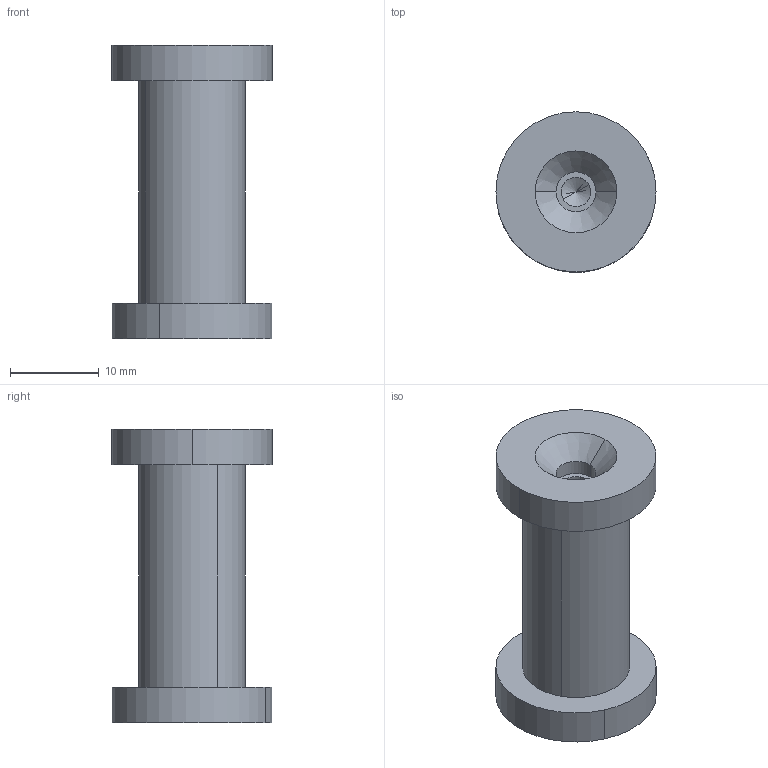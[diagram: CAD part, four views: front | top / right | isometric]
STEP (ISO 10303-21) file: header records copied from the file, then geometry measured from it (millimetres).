
FILE_DESCRIPTION (( 'STEP AP203' ), '1' );
FILE_NAME ('Bolzen Scheibe A M12.STEP', '2018-02-20T07:42:27', ( 'install' ), ( 'Hewlett-Packard Company' ), 'SwSTEP 2.0', 'SolidWorks 2017', '' );
FILE_SCHEMA (( 'CONFIG_CONTROL_DESIGN' ));
Length unit declared in the file: millimetre
Products named in the file (3): Scheibe_M12; Bolzen ScheibeVarA_generisch_M12; Bolzen Scheibe A M12
Assembly tree (3 placements, depth 2):
  Bolzen Scheibe A M12
    Scheibe_M12  x2
    Bolzen ScheibeVarA_generisch_M12
Bounding box: 18 x 18 x 33 mm (x, y, z)
Volume: 4440.3 mm3; surface area: 2890.7 mm2
Topology: 3 solids, 3 shells, 28 faces, 58 edges, 34 vertices
Faces by surface type: cylinder 14, cone 8, plane 6
Entity records: 853 total; most frequent: DIRECTION 112, CARTESIAN_POINT 88, ORIENTED_EDGE 76, AXIS2_PLACEMENT_3D 48, EDGE_CURVE 38, PERSON_AND_ORGANIZATION 27, VERTEX_POINT 24, EDGE_LOOP 24
